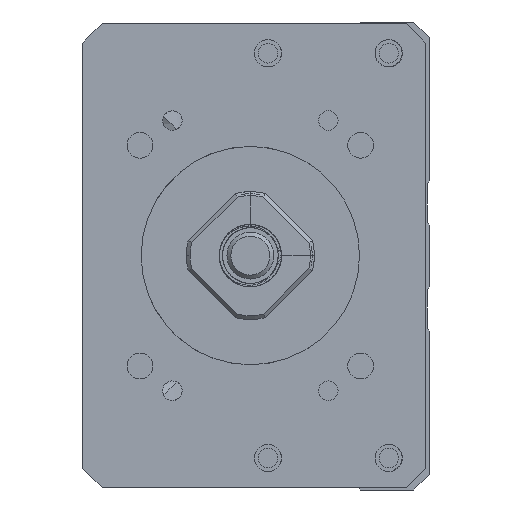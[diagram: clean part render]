
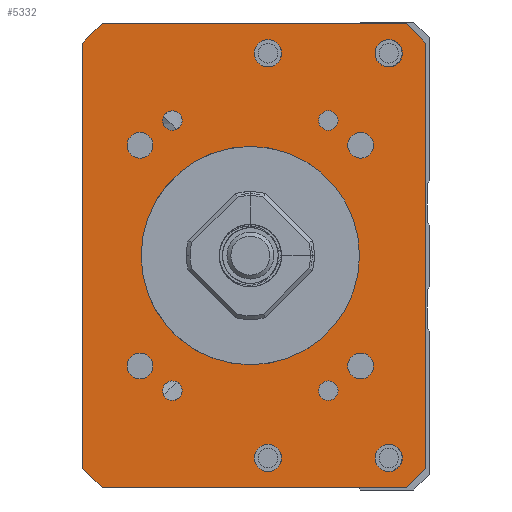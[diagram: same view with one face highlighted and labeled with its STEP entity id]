
A CAD part, left-side view. The second image highlights one B-rep face of the part: STEP entity #5332.
In plain terms, the highlighted planar face has unit normal (-1, 0, 0).
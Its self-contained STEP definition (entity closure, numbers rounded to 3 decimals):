
#4204=FACE_BOUND('',#6964,.T.);
#4205=FACE_BOUND('',#6965,.T.);
#4206=FACE_BOUND('',#6966,.T.);
#4207=FACE_BOUND('',#6967,.T.);
#4208=FACE_BOUND('',#6968,.T.);
#4209=FACE_BOUND('',#6969,.T.);
#4210=FACE_BOUND('',#6970,.T.);
#4211=FACE_BOUND('',#6971,.T.);
#4212=FACE_BOUND('',#6972,.T.);
#4213=FACE_BOUND('',#6973,.T.);
#4214=FACE_BOUND('',#6974,.T.);
#4215=FACE_BOUND('',#6975,.T.);
#4216=FACE_BOUND('',#6976,.T.);
#4217=FACE_BOUND('',#6977,.T.);
#4752=CIRCLE('',#15064,14.);
#4761=CIRCLE('',#15075,1.65);
#4762=CIRCLE('',#15076,1.65);
#4763=CIRCLE('',#15077,1.65);
#4764=CIRCLE('',#15078,1.65);
#4765=CIRCLE('',#15079,1.25);
#4766=CIRCLE('',#15080,1.75);
#4767=CIRCLE('',#15081,1.25);
#4768=CIRCLE('',#15082,1.75);
#4769=CIRCLE('',#15083,1.25);
#4770=CIRCLE('',#15084,1.75);
#4771=CIRCLE('',#15085,1.75);
#4772=CIRCLE('',#15086,1.25);
#5332=ADVANCED_FACE('',(#4204,#4205,#4206,#4207,#4208,#4209,#4210,#4211,
#4212,#4213,#4214,#4215,#4216,#4217),#5868,.F.);
#5868=PLANE('',#15087);
#6964=EDGE_LOOP('',(#9082));
#6965=EDGE_LOOP('',(#9083));
#6966=EDGE_LOOP('',(#9084));
#6967=EDGE_LOOP('',(#9085));
#6968=EDGE_LOOP('',(#9086));
#6969=EDGE_LOOP('',(#9087));
#6970=EDGE_LOOP('',(#9088));
#6971=EDGE_LOOP('',(#9089));
#6972=EDGE_LOOP('',(#9090));
#6973=EDGE_LOOP('',(#9091,#9092,#9093,#9094,#9095,#9096,#9097,#9098));
#6974=EDGE_LOOP('',(#9099));
#6975=EDGE_LOOP('',(#9100));
#6976=EDGE_LOOP('',(#9101));
#6977=EDGE_LOOP('',(#9102));
#9082=ORIENTED_EDGE('',*,*,#12181,.F.);
#9083=ORIENTED_EDGE('',*,*,#12182,.F.);
#9084=ORIENTED_EDGE('',*,*,#12183,.F.);
#9085=ORIENTED_EDGE('',*,*,#12184,.F.);
#9086=ORIENTED_EDGE('',*,*,#12185,.F.);
#9087=ORIENTED_EDGE('',*,*,#12186,.T.);
#9088=ORIENTED_EDGE('',*,*,#12187,.F.);
#9089=ORIENTED_EDGE('',*,*,#12188,.F.);
#9090=ORIENTED_EDGE('',*,*,#12189,.F.);
#9091=ORIENTED_EDGE('',*,*,#12178,.T.);
#9092=ORIENTED_EDGE('',*,*,#12190,.T.);
#9093=ORIENTED_EDGE('',*,*,#12191,.F.);
#9094=ORIENTED_EDGE('',*,*,#12192,.T.);
#9095=ORIENTED_EDGE('',*,*,#12193,.F.);
#9096=ORIENTED_EDGE('',*,*,#12194,.T.);
#9097=ORIENTED_EDGE('',*,*,#12195,.T.);
#9098=ORIENTED_EDGE('',*,*,#12196,.T.);
#9099=ORIENTED_EDGE('',*,*,#12197,.F.);
#9100=ORIENTED_EDGE('',*,*,#12198,.F.);
#9101=ORIENTED_EDGE('',*,*,#12199,.F.);
#9102=ORIENTED_EDGE('',*,*,#12158,.F.);
#10900=VERTEX_POINT('',#20831);
#10920=VERTEX_POINT('',#20907);
#10921=VERTEX_POINT('',#20909);
#10923=VERTEX_POINT('',#20915);
#10924=VERTEX_POINT('',#20917);
#10925=VERTEX_POINT('',#20919);
#10926=VERTEX_POINT('',#20921);
#10927=VERTEX_POINT('',#20923);
#10928=VERTEX_POINT('',#20925);
#10929=VERTEX_POINT('',#20927);
#10930=VERTEX_POINT('',#20929);
#10931=VERTEX_POINT('',#20931);
#10932=VERTEX_POINT('',#20933);
#10933=VERTEX_POINT('',#20935);
#10934=VERTEX_POINT('',#20937);
#10935=VERTEX_POINT('',#20939);
#10936=VERTEX_POINT('',#20941);
#10937=VERTEX_POINT('',#20943);
#10938=VERTEX_POINT('',#20946);
#10939=VERTEX_POINT('',#20948);
#10940=VERTEX_POINT('',#20950);
#12158=EDGE_CURVE('',#10900,#10900,#4752,.T.);
#12178=EDGE_CURVE('',#10921,#10920,#13368,.T.);
#12181=EDGE_CURVE('',#10923,#10923,#4761,.T.);
#12182=EDGE_CURVE('',#10924,#10924,#4762,.T.);
#12183=EDGE_CURVE('',#10925,#10925,#4763,.T.);
#12184=EDGE_CURVE('',#10926,#10926,#4764,.T.);
#12185=EDGE_CURVE('',#10927,#10927,#4765,.T.);
#12186=EDGE_CURVE('',#10928,#10928,#4766,.T.);
#12187=EDGE_CURVE('',#10929,#10929,#4767,.T.);
#12188=EDGE_CURVE('',#10930,#10930,#4768,.T.);
#12189=EDGE_CURVE('',#10931,#10931,#4769,.T.);
#12190=EDGE_CURVE('',#10920,#10932,#13370,.T.);
#12191=EDGE_CURVE('',#10933,#10932,#13371,.T.);
#12192=EDGE_CURVE('',#10933,#10934,#13372,.T.);
#12193=EDGE_CURVE('',#10935,#10934,#13373,.T.);
#12194=EDGE_CURVE('',#10935,#10936,#13374,.T.);
#12195=EDGE_CURVE('',#10936,#10937,#13375,.T.);
#12196=EDGE_CURVE('',#10937,#10921,#13376,.T.);
#12197=EDGE_CURVE('',#10938,#10938,#4770,.T.);
#12198=EDGE_CURVE('',#10939,#10939,#4771,.T.);
#12199=EDGE_CURVE('',#10940,#10940,#4772,.T.);
#13368=LINE('',#20908,#14219);
#13370=LINE('',#20932,#14221);
#13371=LINE('',#20934,#14222);
#13372=LINE('',#20936,#14223);
#13373=LINE('',#20938,#14224);
#13374=LINE('',#20940,#14225);
#13375=LINE('',#20942,#14226);
#13376=LINE('',#20944,#14227);
#14219=VECTOR('',#17327,1.);
#14221=VECTOR('',#17351,1.);
#14222=VECTOR('',#17352,1.);
#14223=VECTOR('',#17353,1.);
#14224=VECTOR('',#17354,1.);
#14225=VECTOR('',#17355,1.);
#14226=VECTOR('',#17356,1.);
#14227=VECTOR('',#17357,1.);
#15064=AXIS2_PLACEMENT_3D('',#20830,#17301,#17302);
#15075=AXIS2_PLACEMENT_3D('',#20914,#17333,#17334);
#15076=AXIS2_PLACEMENT_3D('',#20916,#17335,#17336);
#15077=AXIS2_PLACEMENT_3D('',#20918,#17337,#17338);
#15078=AXIS2_PLACEMENT_3D('',#20920,#17339,#17340);
#15079=AXIS2_PLACEMENT_3D('',#20922,#17341,#17342);
#15080=AXIS2_PLACEMENT_3D('',#20924,#17343,#17344);
#15081=AXIS2_PLACEMENT_3D('',#20926,#17345,#17346);
#15082=AXIS2_PLACEMENT_3D('',#20928,#17347,#17348);
#15083=AXIS2_PLACEMENT_3D('',#20930,#17349,#17350);
#15084=AXIS2_PLACEMENT_3D('',#20945,#17358,#17359);
#15085=AXIS2_PLACEMENT_3D('',#20947,#17360,#17361);
#15086=AXIS2_PLACEMENT_3D('',#20949,#17362,#17363);
#15087=AXIS2_PLACEMENT_3D('',#20951,#17364,#17365);
#17301=DIRECTION('',(-1.,0.,0.));
#17302=DIRECTION('',(0.,1.,0.));
#17327=DIRECTION('',(0.,0.,-1.));
#17333=DIRECTION('',(-1.,0.,0.));
#17334=DIRECTION('',(0.,0.,1.));
#17335=DIRECTION('',(-1.,0.,0.));
#17336=DIRECTION('',(0.,0.,1.));
#17337=DIRECTION('',(-1.,0.,0.));
#17338=DIRECTION('',(0.,0.,1.));
#17339=DIRECTION('',(-1.,0.,0.));
#17340=DIRECTION('',(0.,0.,1.));
#17341=DIRECTION('',(-1.,0.,0.));
#17342=DIRECTION('',(0.,1.,0.));
#17343=DIRECTION('',(1.,0.,0.));
#17344=DIRECTION('',(0.,0.,1.));
#17345=DIRECTION('',(-1.,0.,0.));
#17346=DIRECTION('',(0.,1.,0.));
#17347=DIRECTION('',(-1.,0.,0.));
#17348=DIRECTION('',(0.,0.,1.));
#17349=DIRECTION('',(-1.,0.,0.));
#17350=DIRECTION('',(0.,1.,0.));
#17351=DIRECTION('',(0.,-0.707,-0.707));
#17352=DIRECTION('',(0.,1.,0.));
#17353=DIRECTION('',(0.,-0.707,0.707));
#17354=DIRECTION('',(0.,0.,-1.));
#17355=DIRECTION('',(0.,0.707,0.707));
#17356=DIRECTION('',(0.,1.,0.));
#17357=DIRECTION('',(0.,0.707,-0.707));
#17358=DIRECTION('',(-1.,0.,0.));
#17359=DIRECTION('',(0.,0.,1.));
#17360=DIRECTION('',(-1.,0.,0.));
#17361=DIRECTION('',(0.,0.,1.));
#17362=DIRECTION('',(-1.,0.,0.));
#17363=DIRECTION('',(0.,1.,0.));
#17364=DIRECTION('',(1.,0.,0.));
#17365=DIRECTION('',(0.,1.,0.));
#20830=CARTESIAN_POINT('',(-211.,0.,-200.));
#20831=CARTESIAN_POINT('',(-211.,14.,-200.));
#20907=CARTESIAN_POINT('',(-211.,21.499,-227.25));
#20908=CARTESIAN_POINT('',(-211.,21.499,-170.25));
#20909=CARTESIAN_POINT('',(-211.,21.499,-172.75));
#20914=CARTESIAN_POINT('',(-211.,14.142,-185.858));
#20915=CARTESIAN_POINT('',(-211.,14.142,-184.208));
#20916=CARTESIAN_POINT('',(-211.,-14.142,-185.858));
#20917=CARTESIAN_POINT('',(-211.,-14.142,-184.208));
#20918=CARTESIAN_POINT('',(-211.,14.142,-214.142));
#20919=CARTESIAN_POINT('',(-211.,14.142,-212.492));
#20920=CARTESIAN_POINT('',(-211.,-14.142,-214.142));
#20921=CARTESIAN_POINT('',(-211.,-14.142,-212.492));
#20922=CARTESIAN_POINT('',(-211.,-10.,-217.321));
#20923=CARTESIAN_POINT('',(-211.,-8.75,-217.321));
#20924=CARTESIAN_POINT('',(-211.,-2.25,-225.936));
#20925=CARTESIAN_POINT('',(-211.,-2.25,-224.186));
#20926=CARTESIAN_POINT('',(-211.,10.,-182.679));
#20927=CARTESIAN_POINT('',(-211.,11.25,-182.679));
#20928=CARTESIAN_POINT('',(-211.,-2.25,-174.064));
#20929=CARTESIAN_POINT('',(-211.,-2.25,-172.314));
#20930=CARTESIAN_POINT('',(-211.,10.,-217.321));
#20931=CARTESIAN_POINT('',(-211.,11.25,-217.321));
#20932=CARTESIAN_POINT('',(-211.,18.999,-229.75));
#20933=CARTESIAN_POINT('',(-211.,18.999,-229.75));
#20934=CARTESIAN_POINT('',(-211.,-22.501,-229.75));
#20935=CARTESIAN_POINT('',(-211.,-20.001,-229.75));
#20936=CARTESIAN_POINT('',(-211.,-22.501,-227.25));
#20937=CARTESIAN_POINT('',(-211.,-22.501,-227.25));
#20938=CARTESIAN_POINT('',(-211.,-22.501,-170.25));
#20939=CARTESIAN_POINT('',(-211.,-22.501,-172.75));
#20940=CARTESIAN_POINT('',(-211.,-22.501,-172.75));
#20941=CARTESIAN_POINT('',(-211.,-20.001,-170.25));
#20942=CARTESIAN_POINT('',(-211.,-22.501,-170.25));
#20943=CARTESIAN_POINT('',(-211.,18.999,-170.25));
#20944=CARTESIAN_POINT('',(-211.,18.999,-170.25));
#20945=CARTESIAN_POINT('',(-211.,-17.75,-174.064));
#20946=CARTESIAN_POINT('',(-211.,-17.75,-172.314));
#20947=CARTESIAN_POINT('',(-211.,-17.75,-225.936));
#20948=CARTESIAN_POINT('',(-211.,-17.75,-224.186));
#20949=CARTESIAN_POINT('',(-211.,-10.,-182.679));
#20950=CARTESIAN_POINT('',(-211.,-8.75,-182.679));
#20951=CARTESIAN_POINT('',(-211.,-22.501,-170.25));
